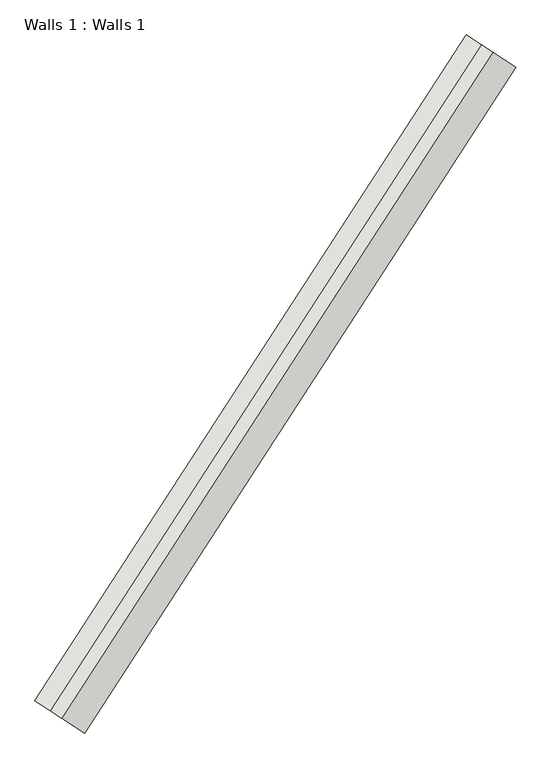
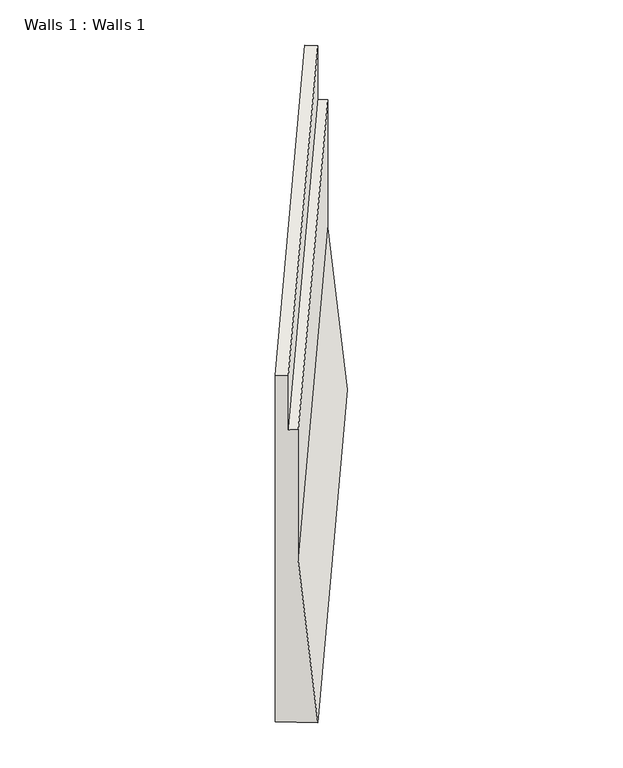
"""IFC4 building model written with IfcOpenShell, lengths in millimetres: wall geometry, Walls 1 : Walls 1."""

from ifc_helpers import new_model, si_unit, origin, place, context, project, spatial, faceted_brep, source, transform, mapped, element, save


def walls_1_walls_1_87840e1f(model_context):
    return source(origin(), model_context, "Body", "Brep", [
        faceted_brep([(-353128.9942827, -506120.7862522, 634070.0), (-352583.5925004, -506474.3918175, 634070.0), (-352835.3163999, -506311.1892489, 637070.0), (-352835.3163999, -506311.1892489, 639490.0), (-352961.1783497, -506229.5879646, 639490.0), (-352961.1783497, -506229.5879646, 640490.0), (-353128.9942827, -506120.7862522, 640490.0), (-348396.1197934, -498820.793167, 634160.0), (-348396.1197934, -498820.793167, 640530.0), (-348228.3038604, -498929.5948794, 640530.0), (-348228.3038604, -498929.5948794, 639530.0), (-348102.4419106, -499011.1961637, 639530.0), (-348102.4419106, -499011.1961637, 637160.0), (-347850.7180111, -499174.3987323, 634160.0)], [[[0, 1, 2, 3, 4, 5, 6]], [[7, 8, 9, 10, 11, 12, 13]], [[13, 12, 2, 1]], [[8, 7, 0, 6]], [[12, 11, 3, 2]], [[11, 10, 4, 3]], [[10, 9, 5, 4]], [[9, 8, 6, 5]], [[7, 13, 1, 0]]]),
    ])


if __name__ == "__main__":
    model = new_model("IFC4")
    model_context = context("Model", 3, world=origin())
    ifc_project = project(units=[si_unit("LENGTHUNIT", "METRE", prefix="MILLI")], contexts=[model_context])
    site = spatial("IfcSite", under=ifc_project)
    building = spatial("IfcBuilding", under=site)
    placement = place(None, origin())
    walls_1_walls_1_shape = walls_1_walls_1_87840e1f(model_context)
    element("IfcWall", 1, ObjectType="Walls 1 : Walls 1", at=placement, inside=building, context=model_context, shape_type="MappedRepresentation", body=[
        mapped(walls_1_walls_1_shape, transform((0.0, 0.0, 0.0), x_axis=(1.0, 0.0, 0.0), y_axis=(0.0, 1.0, 0.0), z_axis=(0.0, 0.0, 1.0))),
    ])
    save(model, "model.ifc")
